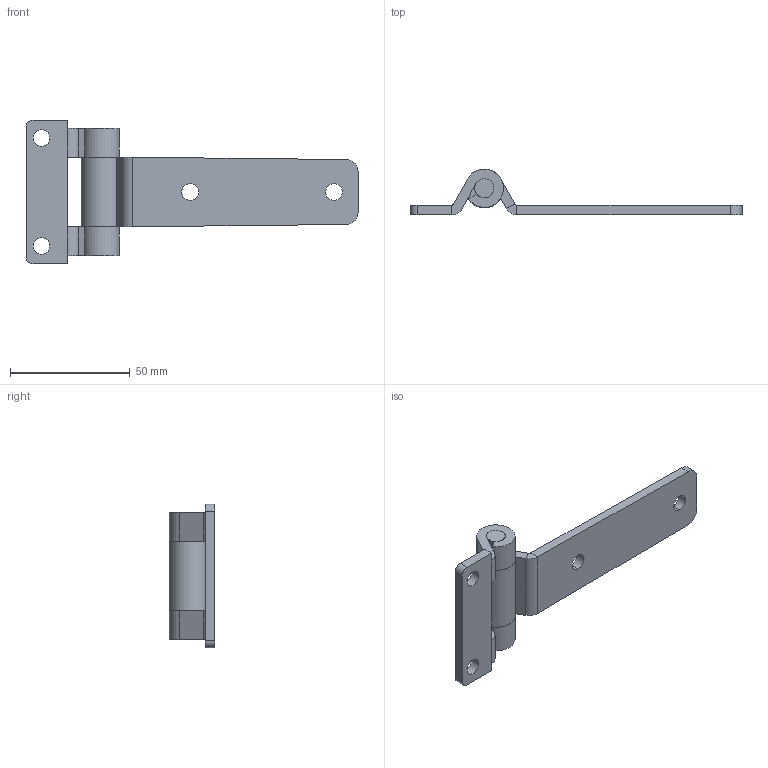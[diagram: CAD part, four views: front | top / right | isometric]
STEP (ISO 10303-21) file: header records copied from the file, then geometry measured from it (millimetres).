
FILE_DESCRIPTION (( 'STEP AP214' ), '1' );
FILE_NAME ('SK2-127-1.STEP', '2020-03-26T05:16:22', ( 'admin' ), ( 'Microsoft' ), 'SwSTEP 2.0', 'SolidWorks 2018', '' );
FILE_SCHEMA (( 'AUTOMOTIVE_DESIGN' ));
Length unit declared in the file: millimetre
Products named in the file (4): 2-127-1-F3; 2-127-1-F2; 2-127-1-F1; SK2-127-1
Assembly tree (3 placements, depth 2):
  SK2-127-1
    2-127-1-F1
    2-127-1-F2
    2-127-1-F3
Bounding box: 138.5 x 19 x 60 mm (x, y, z)
Volume: 26451.8 mm3; surface area: 16553.8 mm2
Topology: 3 solids, 3 shells, 302 faces, 744 edges, 448 vertices
Faces by surface type: plane 276, cylinder 26
Entity records: 8878 total; most frequent: DIRECTION 1532, CARTESIAN_POINT 1500, ORIENTED_EDGE 1488, EDGE_CURVE 744, VECTOR 572, LINE 572, AXIS2_PLACEMENT_3D 480, VERTEX_POINT 448
